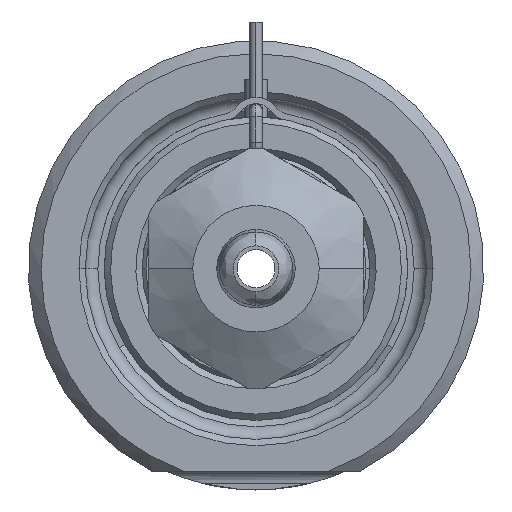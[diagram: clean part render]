
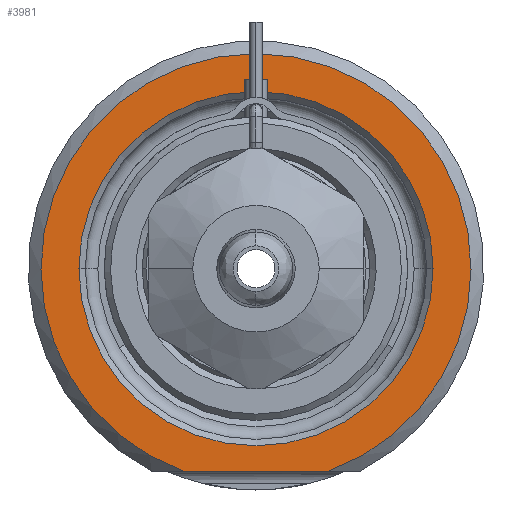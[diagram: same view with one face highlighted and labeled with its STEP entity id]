
A CAD part, front view. The second image highlights one B-rep face of the part: STEP entity #3981.
In plain terms, the highlighted planar face has unit normal (0, -1, 0).
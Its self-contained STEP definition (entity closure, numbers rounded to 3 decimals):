
#641=CARTESIAN_POINT('',(0.,0.,0.));
#642=DIRECTION('',(0.,-1.,0.));
#643=DIRECTION('',(0.338,0.,-0.941));
#644=AXIS2_PLACEMENT_3D('',#641,#642,#643);
#665=DIRECTION('',(1.,0.,0.));
#666=VECTOR('',#665,11.489);
#667=CARTESIAN_POINT('',(-5.745,0.,-16.));
#668=LINE('',#667,#666);
#669=CARTESIAN_POINT('',(0.,0.,0.));
#670=DIRECTION('',(0.,1.,0.));
#671=DIRECTION('',(-1.,0.,0.));
#672=AXIS2_PLACEMENT_3D('',#669,#670,#671);
#674=CARTESIAN_POINT('',(0.,0.,0.));
#675=DIRECTION('',(0.,1.,0.));
#676=DIRECTION('',(1.,0.,0.));
#677=AXIS2_PLACEMENT_3D('',#674,#675,#676);
#2478=CARTESIAN_POINT('',(-14.,0.,0.));
#2479=CARTESIAN_POINT('',(14.,0.,0.));
#2480=VERTEX_POINT('',#2478);
#2481=VERTEX_POINT('',#2479);
#2528=CARTESIAN_POINT('',(-5.745,0.,-16.));
#2529=CARTESIAN_POINT('',(5.745,0.,-16.));
#2530=VERTEX_POINT('',#2528);
#2531=VERTEX_POINT('',#2529);
#3966=CARTESIAN_POINT('',(0.,0.,0.));
#3967=DIRECTION('',(0.,-1.,0.));
#3968=DIRECTION('',(1.,0.,0.));
#3969=AXIS2_PLACEMENT_3D('',#3966,#3967,#3968);
#3970=PLANE('',#3969);
#3971=ORIENTED_EDGE('',*,*,#3898,.F.);
#3972=ORIENTED_EDGE('',*,*,#3958,.F.);
#3973=EDGE_LOOP('',(#3971,#3972));
#3974=FACE_OUTER_BOUND('',#3973,.F.);
#3976=ORIENTED_EDGE('',*,*,#3975,.F.);
#3978=ORIENTED_EDGE('',*,*,#3977,.F.);
#3979=EDGE_LOOP('',(#3976,#3978));
#3980=FACE_BOUND('',#3979,.F.);
#3981=ADVANCED_FACE('',(#3974,#3980),#3970,.T.);
#645=CIRCLE('',#644,17.);
#673=CIRCLE('',#672,14.);
#678=CIRCLE('',#677,14.);
#3898=EDGE_CURVE('',#2530,#2531,#668,.T.);
#3958=EDGE_CURVE('',#2531,#2530,#645,.T.);
#3975=EDGE_CURVE('',#2480,#2481,#673,.T.);
#3977=EDGE_CURVE('',#2481,#2480,#678,.T.);
